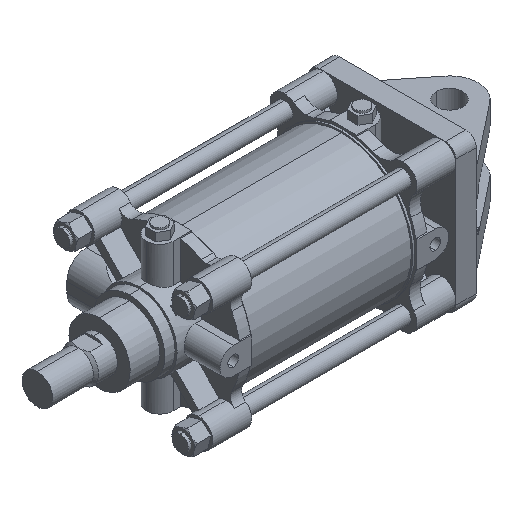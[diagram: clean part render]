
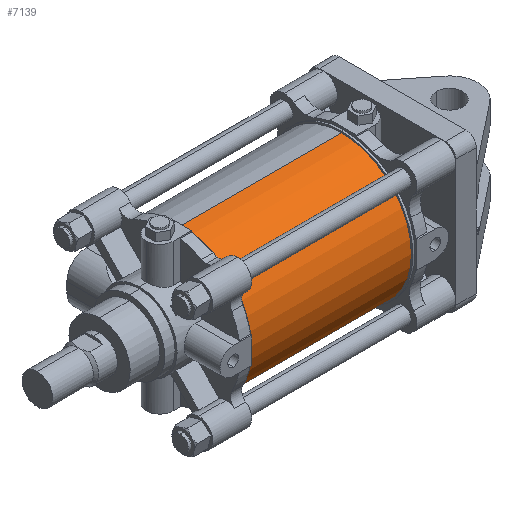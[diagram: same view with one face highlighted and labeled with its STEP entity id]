
A CAD part, isometric view. The second image highlights one B-rep face of the part: STEP entity #7139.
In plain terms, the highlighted cylindrical face has radius 68.5 mm (diameter 137 mm), a partial arc.
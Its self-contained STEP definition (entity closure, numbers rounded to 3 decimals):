
#126 = ORIENTED_EDGE ( 'NONE', *, *, #7286, .T. ) ;
#426 = DIRECTION ( 'NONE',  ( 1., 0., 0. ) ) ;
#1026 = LINE ( 'NONE', #7247, #7787 ) ;
#1102 = VERTEX_POINT ( 'NONE', #8672 ) ;
#1321 = DIRECTION ( 'NONE',  ( 0., 0., 1. ) ) ;
#1642 = AXIS2_PLACEMENT_3D ( 'NONE', #5786, #5957, #5072 ) ;
#1680 = ORIENTED_EDGE ( 'NONE', *, *, #5035, .F. ) ;
#1746 = VERTEX_POINT ( 'NONE', #7922 ) ;
#2584 = FACE_OUTER_BOUND ( 'NONE', #5061, .T. ) ;
#3242 = DIRECTION ( 'NONE',  ( 0., 0., -1. ) ) ;
#3307 = CIRCLE ( 'NONE', #1642, 68.5 ) ;
#3570 = CARTESIAN_POINT ( 'NONE',  ( 79., 0., -68.5 ) ) ;
#3889 = VERTEX_POINT ( 'NONE', #5354 ) ;
#3948 = CARTESIAN_POINT ( 'NONE',  ( 79., 0., 0. ) ) ;
#5035 = EDGE_CURVE ( 'NONE', #3889, #10850, #10138, .T. ) ;
#5061 = EDGE_LOOP ( 'NONE', ( #7528, #1680, #9769, #126 ) ) ;
#5072 = DIRECTION ( 'NONE',  ( 0., 0., -1. ) ) ;
#5354 = CARTESIAN_POINT ( 'NONE',  ( 79., 0., 68.5 ) ) ;
#5786 = CARTESIAN_POINT ( 'NONE',  ( -79., 0., 0. ) ) ;
#5957 = DIRECTION ( 'NONE',  ( 1., 0., 0. ) ) ;
#6138 = CARTESIAN_POINT ( 'NONE',  ( 79., 0., 0. ) ) ;
#6240 = VECTOR ( 'NONE', #8048, 1000. ) ;
#6697 = DIRECTION ( 'NONE',  ( -1., 0., 0. ) ) ;
#7076 = EDGE_CURVE ( 'NONE', #3889, #1102, #10683, .T. ) ;
#7139 = ADVANCED_FACE ( 'NONE', ( #2584 ), #10203, .T. ) ;
#7191 = AXIS2_PLACEMENT_3D ( 'NONE', #6138, #9509, #1321 ) ;
#7247 = CARTESIAN_POINT ( 'NONE',  ( 79., 0., -68.5 ) ) ;
#7286 = EDGE_CURVE ( 'NONE', #1102, #1746, #3307, .T. ) ;
#7528 = ORIENTED_EDGE ( 'NONE', *, *, #7795, .F. ) ;
#7787 = VECTOR ( 'NONE', #6697, 1000. ) ;
#7795 = EDGE_CURVE ( 'NONE', #10850, #1746, #1026, .T. ) ;
#7922 = CARTESIAN_POINT ( 'NONE',  ( -79., 0., -68.5 ) ) ;
#8048 = DIRECTION ( 'NONE',  ( -1., 0., 0. ) ) ;
#8561 = CARTESIAN_POINT ( 'NONE',  ( 79., 0., 68.5 ) ) ;
#8642 = AXIS2_PLACEMENT_3D ( 'NONE', #3948, #426, #3242 ) ;
#8672 = CARTESIAN_POINT ( 'NONE',  ( -79., 0., 68.5 ) ) ;
#9509 = DIRECTION ( 'NONE',  ( -1., 0., 0. ) ) ;
#9769 = ORIENTED_EDGE ( 'NONE', *, *, #7076, .T. ) ;
#10138 = CIRCLE ( 'NONE', #8642, 68.5 ) ;
#10203 = CYLINDRICAL_SURFACE ( 'NONE', #7191, 68.5 ) ;
#10683 = LINE ( 'NONE', #8561, #6240 ) ;
#10850 = VERTEX_POINT ( 'NONE', #3570 ) ;
